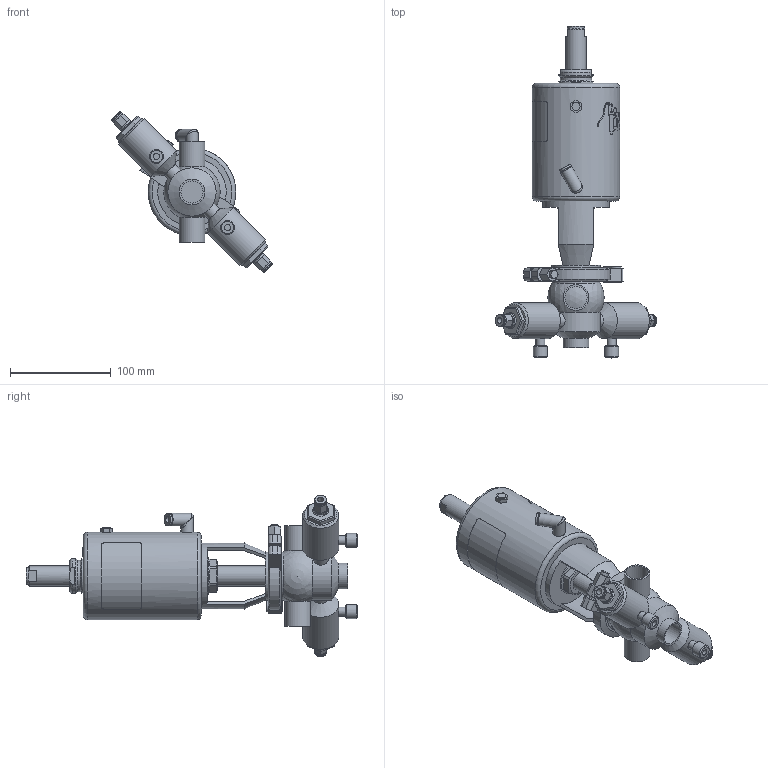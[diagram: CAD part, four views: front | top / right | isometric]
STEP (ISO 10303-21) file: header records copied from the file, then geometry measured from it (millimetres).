
FILE_DESCRIPTION (( 'STEP AP214' ), '1' );
FILE_NAME ('INNOVA D T W OD 1 T1 AS NC_10.246.16.0002.STEP', '2024-08-08T09:16:36', ( '' ), ( '' ), 'SwSTEP 2.0', 'SolidWorks 2023', '' );
FILE_SCHEMA (( 'AUTOMOTIVE_DESIGN' ));
Length unit declared in the file: millimetre
Products named in the file (5): 10.240.15.0001_DN 025; INNOVA D T W OD 1 T1 AS NC_10.246.16.0002; 10.240.15.0010_DN 025; 10.240.15.0014_T1 AS P0; 10.246.15.0002_OD 1"
Assembly tree (4 placements, depth 2):
  INNOVA D T W OD 1 T1 AS NC_10.246.16.0002
    10.246.15.0002_OD 1"
    10.240.15.0010_DN 025
    10.240.15.0014_T1 AS P0
    10.240.15.0001_DN 025
Bounding box: 160.65 x 330 x 160.65 mm (x, y, z)
Volume: 1074066.7 mm3; surface area: 133262.2 mm2
Topology: 4 solids, 4 shells, 429 faces, 1077 edges, 697 vertices
Faces by surface type: plane 225, cylinder 86, bspline 80, cone 31, torus 4, sphere 3
Full cylindrical faces by diameter (mm): 6 x4, 6.15 x1, 8 x3, 8.5 x1, 9 x2, 10 x2, 10.5 x1, 12 x4, 12.5 x3, 14 x4, 15 x2, 16 x1, 20 x2, 22.1 x3, 25.4 x3, 31 x1, 34.5 x2, 36 x2, 36.5 x1, 48 x3, 59.7 x2, 66 x1, 87 x1
Entity records: 22108 total; most frequent: CARTESIAN_POINT 10971, ORIENTED_EDGE 1956, DIRECTION 1641, EDGE_CURVE 978, VERTEX_POINT 675, AXIS2_PLACEMENT_3D 618, EDGE_LOOP 555, FACE_OUTER_BOUND 485
